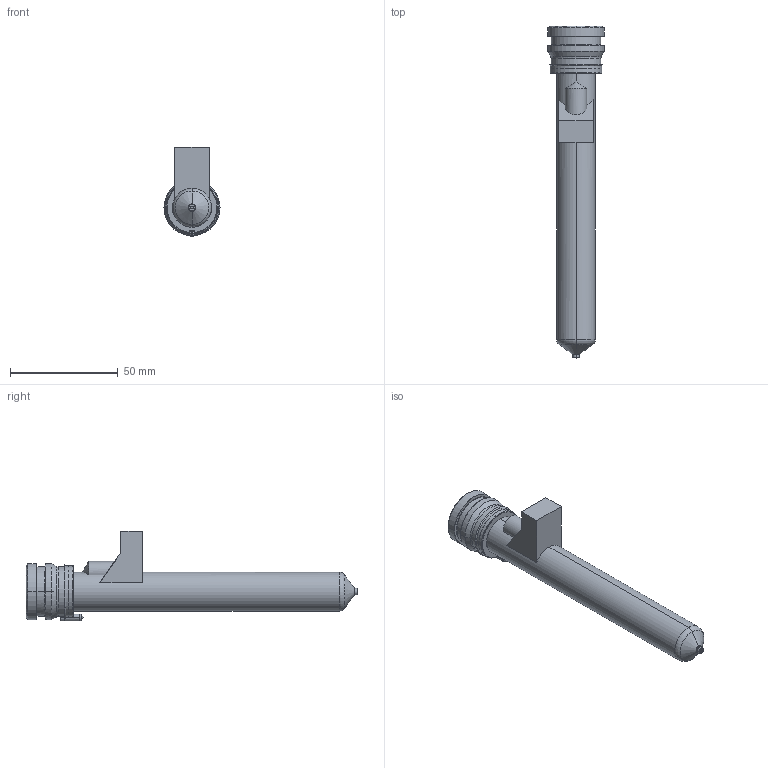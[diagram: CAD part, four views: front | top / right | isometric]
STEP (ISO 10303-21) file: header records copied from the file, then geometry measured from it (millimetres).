
FILE_DESCRIPTION((''),'2;1');
FILE_NAME('MPN-08-24-VP3-136-M','2026-02-05T13:33:01',('UPTIO'),('Thermoplay S.p.A.'),'CREO PARAMETRIC BY PTC INC, 2023494','CREO PARAMETRIC BY PTC INC, 2023494','');
FILE_SCHEMA(('CONFIG_CONTROL_DESIGN','SHAPE_APPEARANCE_LAYERS_GROUPS'));
Length unit declared in the file: millimetre
Products named in the file (1): MPN-08-24-VP3-136-M
Bounding box: 26 x 154.1 x 41.5 mm (x, y, z)
Volume: 29625.3 mm3; surface area: 39387.5 mm2
Topology: 2 solids, 3 shells, 571 faces, 1494 edges, 922 vertices
Faces by surface type: cylinder 178, plane 143, bspline 103, torus 68, cone 66, sphere 7, extrusion 6
Entity records: 30032 total; most frequent: CARTESIAN_POINT 13522, ORIENTED_EDGE 2970, DIRECTION 2631, EDGE_CURVE 1485, AXIS2_PLACEMENT_3D 1029, VERTEX_POINT 922, EDGE_LOOP 601, VECTOR 573
